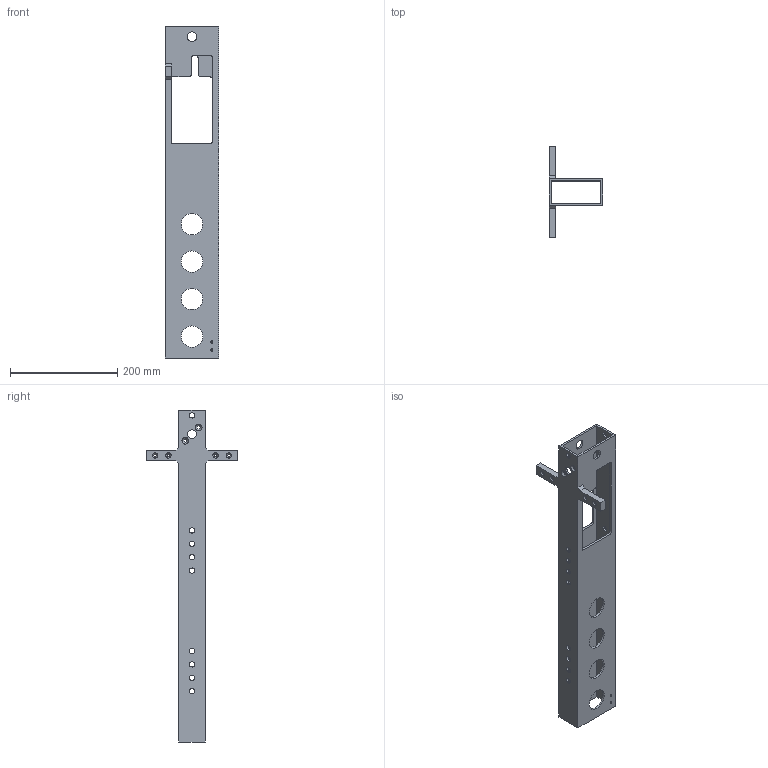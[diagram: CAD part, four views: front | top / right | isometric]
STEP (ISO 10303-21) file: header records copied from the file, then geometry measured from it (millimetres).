
FILE_DESCRIPTION( ( 'Unknown' ), '1' );
FILE_NAME( 'F:/navkite transat/construction/2016/3D ET ASSEMBLAGES/desal/DES 10.stp', 'Unknown', ( 'GMA' ), ( 'Unknown' ), 'XStep 1.0', 'Unknown', ' ' );
FILE_SCHEMA( ( 'automotive_design' ) );
Length unit declared in the file: millimetre
Products named in the file (1): 1
Bounding box: 100 x 170 x 620 mm (x, y, z)
Volume: 590060.9 mm3; surface area: 303311.5 mm2
Topology: 1 solids, 1 shells, 95 faces, 300 edges, 205 vertices
Faces by surface type: cylinder 53, plane 34, cone 8
Full cylindrical faces by diameter (mm): 4.134 x2, 4.2 x4, 5.5 x4, 6.35 x4, 10 x18, 16 x2, 18 x2, 40 x8
Entity records: 3885 total; most frequent: DIRECTION 531, CARTESIAN_POINT 503, ORIENTED_EDGE 450, EDGE_LOOP 239, EDGE_CURVE 225, AXIS2_PLACEMENT_3D 210, VERTEX_POINT 182, FACE_OUTER_BOUND 139
